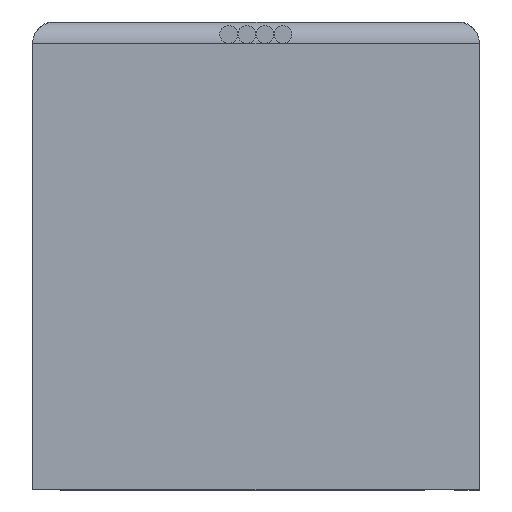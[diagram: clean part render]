
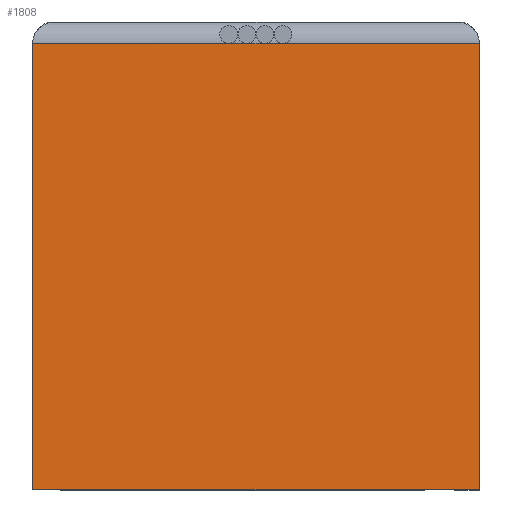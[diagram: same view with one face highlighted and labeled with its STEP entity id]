
A CAD part, left-side view. The second image highlights one B-rep face of the part: STEP entity #1808.
In plain terms, the highlighted planar face has unit normal (-1, 0, 0).
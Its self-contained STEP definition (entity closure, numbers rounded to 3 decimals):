
#151 = FACE_OUTER_BOUND ( 'NONE', #183, .T. ) ;
#166 = CARTESIAN_POINT ( 'NONE',  ( -40., 12.6, 6.3 ) ) ;
#175 = LINE ( 'NONE', #692, #1853 ) ;
#176 = DIRECTION ( 'NONE',  ( 0., 0., -1. ) ) ;
#183 = EDGE_LOOP ( 'NONE', ( #586, #1832, #1705, #923 ) ) ;
#330 = PLANE ( 'NONE',  #1502 ) ;
#343 = CARTESIAN_POINT ( 'NONE',  ( -40., 0., 6.3 ) ) ;
#382 = DIRECTION ( 'NONE',  ( 0., 0., 1. ) ) ;
#507 = LINE ( 'NONE', #1979, #1048 ) ;
#586 = ORIENTED_EDGE ( 'NONE', *, *, #1426, .T. ) ;
#625 = LINE ( 'NONE', #2202, #2250 ) ;
#692 = CARTESIAN_POINT ( 'NONE',  ( -40., 12.6, 6.3 ) ) ;
#828 = DIRECTION ( 'NONE',  ( 0., -1., 0. ) ) ;
#923 = ORIENTED_EDGE ( 'NONE', *, *, #2041, .T. ) ;
#1017 = VERTEX_POINT ( 'NONE', #166 ) ;
#1042 = EDGE_CURVE ( 'NONE', #1975, #1017, #1956, .T. ) ;
#1048 = VECTOR ( 'NONE', #382, 1000. ) ;
#1235 = EDGE_CURVE ( 'NONE', #1017, #1737, #175, .T. ) ;
#1426 = EDGE_CURVE ( 'NONE', #1601, #1737, #507, .T. ) ;
#1502 = AXIS2_PLACEMENT_3D ( 'NONE', #1754, #2297, #176 ) ;
#1519 = VECTOR ( 'NONE', #1574, 1000. ) ;
#1527 = DIRECTION ( 'NONE',  ( 0., -1., 0. ) ) ;
#1541 = CARTESIAN_POINT ( 'NONE',  ( -40., 0., -6.3 ) ) ;
#1574 = DIRECTION ( 'NONE',  ( 0., 0., 1. ) ) ;
#1601 = VERTEX_POINT ( 'NONE', #1541 ) ;
#1705 = ORIENTED_EDGE ( 'NONE', *, *, #1042, .F. ) ;
#1737 = VERTEX_POINT ( 'NONE', #343 ) ;
#1754 = CARTESIAN_POINT ( 'NONE',  ( -40., 12.6, -6.3 ) ) ;
#1808 = ADVANCED_FACE ( 'NONE', ( #151 ), #330, .F. ) ;
#1832 = ORIENTED_EDGE ( 'NONE', *, *, #1235, .F. ) ;
#1853 = VECTOR ( 'NONE', #828, 1000. ) ;
#1956 = LINE ( 'NONE', #2113, #1519 ) ;
#1975 = VERTEX_POINT ( 'NONE', #2121 ) ;
#1979 = CARTESIAN_POINT ( 'NONE',  ( -40., 0., -6.3 ) ) ;
#2041 = EDGE_CURVE ( 'NONE', #1975, #1601, #625, .T. ) ;
#2113 = CARTESIAN_POINT ( 'NONE',  ( -40., 12.6, -6.3 ) ) ;
#2121 = CARTESIAN_POINT ( 'NONE',  ( -40., 12.6, -6.3 ) ) ;
#2202 = CARTESIAN_POINT ( 'NONE',  ( -40., 12.6, -6.3 ) ) ;
#2250 = VECTOR ( 'NONE', #1527, 1000. ) ;
#2297 = DIRECTION ( 'NONE',  ( 1., 0., 0. ) ) ;
